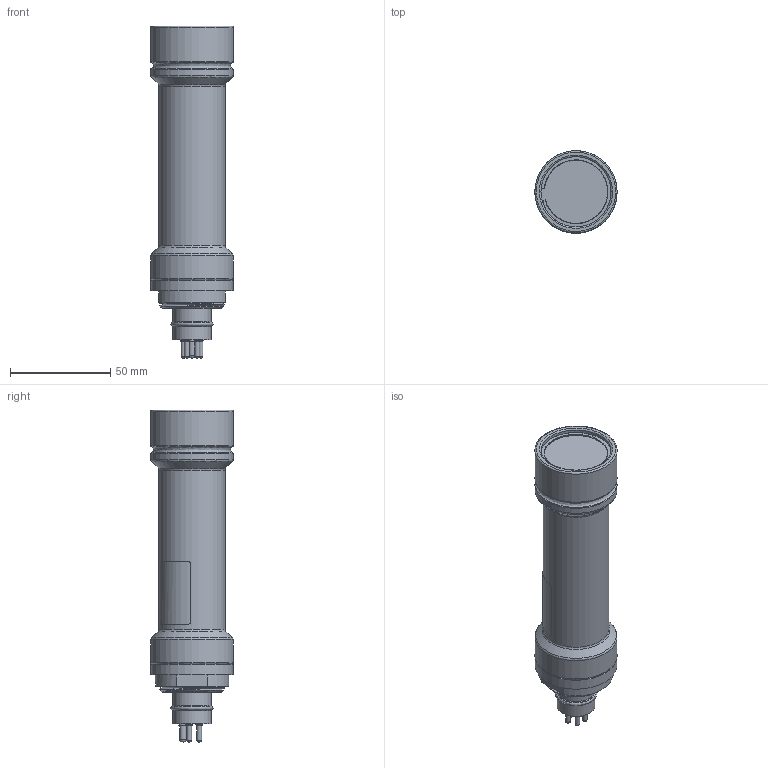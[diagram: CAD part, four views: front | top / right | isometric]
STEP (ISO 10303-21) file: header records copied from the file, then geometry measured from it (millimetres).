
FILE_DESCRIPTION (( 'STEP AP203' ), '1' );
FILE_NAME ('UWC-325SS_Website.STEP', '2023-08-03T20:06:26', ( '' ), ( '' ), 'SwSTEP 2.0', 'SolidWorks 2020', '' );
FILE_SCHEMA (( 'CONFIG_CONTROL_DESIGN' ));
Length unit declared in the file: inch
Products named in the file (1): UWC-325SS_Website
Bounding box: 41.15 x 41.15 x 165.99 mm (x, y, z)
Volume: 103032.6 mm3; surface area: 37722.3 mm2
Topology: 4 solids, 6 shells, 543 faces, 1509 edges, 986 vertices
Faces by surface type: cylinder 248, bspline 166, plane 117, cone 12
Full cylindrical faces by diameter (mm): 2.337 x4, 3.175 x1, 3.251 x4, 4.064 x1, 11.938 x2, 15.24 x2, 19.05 x2, 23.812 x1, 25.4 x1, 26.035 x1, 33.02 x1, 35.052 x1, 36.322 x1, 41.021 x1, 41.148 x3
Entity records: 23578 total; most frequent: CARTESIAN_POINT 11886, ORIENTED_EDGE 2842, DIRECTION 1846, EDGE_CURVE 1421, VERTEX_POINT 962, AXIS2_PLACEMENT_3D 748, EDGE_LOOP 617, FACE_OUTER_BOUND 587
